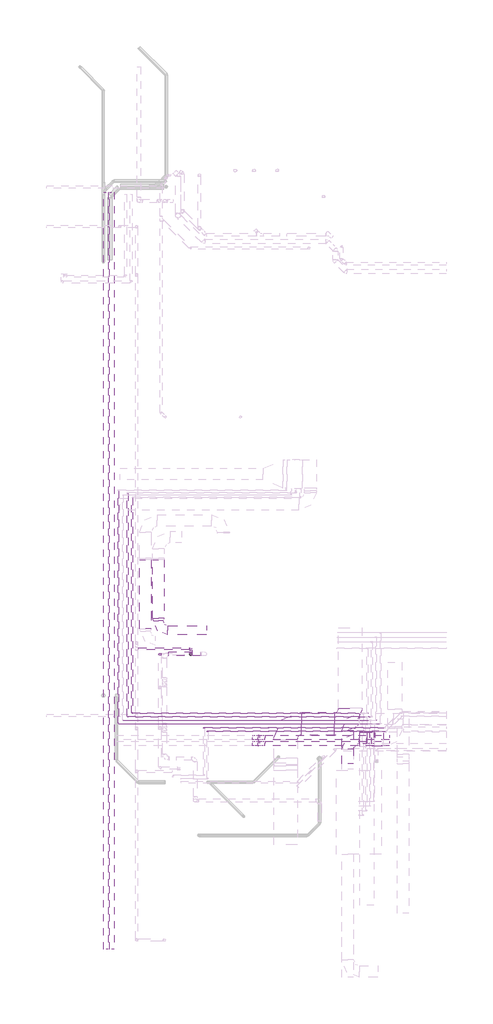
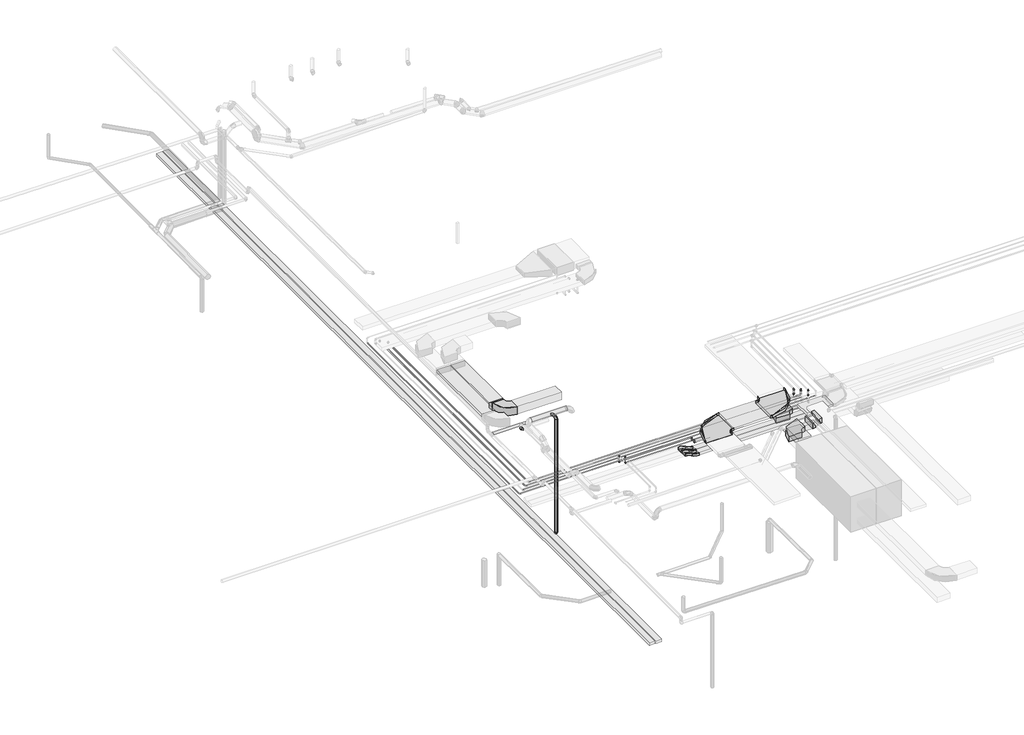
# One storey, part 4 of 10: 23 pipe segments, 17 pipe fittings, 8 cable carrier segments, 7 duct segments, 6 cable carrier fittings, 6 duct fittings.
"""IFC4 building model written with IfcOpenShell, lengths in millimetres."""

from ifc_helpers import new_model, si_unit, point, frame, frame_2d, origin, place, context, project, spatial, polyline, circle_curve, trimmed, segment, composite_curve, outline, extrude, transform, mapped, element, save
from components import m_codo_horizontal_de_canal_a375e3e3, m_codo_vertical_exterior_de_canal_el_b3e8eea7, m_codo_vertical_interior_de_canal_el_369a9aa2, duct_fitting_e59b9992, m_codo_rectangular_radio_apt_1_w_3d36b4d6, m_codo_rectangular_radio_apt_1_w_8ec2a39b, m_codo_rectangular_radio_imp_1_w_4a62f7f6, pipe_fitting_688cd524, pipe_fitting_371413ad, pipe_fitting_87aeffad, pipe_fitting_0bc3994a, pipe_fitting_c7f6bb04, pipe_fitting_c06ac706

model = new_model("IFC4")

# Units and contexts
model_context = context("Model", 3, world=origin())
ifc_project = project(units=[si_unit("LENGTHUNIT", "METRE", prefix="MILLI")], contexts=[model_context])

# Site, building, storey
site = spatial("IfcSite", under=ifc_project)
building = spatial("IfcBuilding", under=site)
storey = spatial("IfcBuildingStorey", under=building, Name="Nivell 00 P00_PB", Elevation=6330.0)

# Cable carrier fittings
placement = place(None, origin())
m_codo_horizontal_de_canal_shape = m_codo_horizontal_de_canal_a375e3e3(model_context)
element("IfcCableCarrierFitting", 1, ObjectType="M_Codo horizontal de canal : Gasos", at=placement, inside=storey, context=model_context, shape_type="MappedRepresentation", body=[
    mapped(m_codo_horizontal_de_canal_shape, transform((11819.6653746, -14970.900755, 10510.0), x_axis=(-1.0, 0.0, 0.0), y_axis=(0.0, -1.0, 0.0), z_axis=(0.0, 0.0, 1.0))),
])
element("IfcCableCarrierFitting", 2, ObjectType="M_Codo horizontal de canal : Gasos", at=placement, inside=storey, context=model_context, shape_type="MappedRepresentation", body=[
    mapped(m_codo_horizontal_de_canal_shape, transform((14569.6653746, -14970.900755, 10510.0), x_axis=(1.0, 0.0, 0.0), y_axis=(0.0, 1.0, 0.0), z_axis=(0.0, 0.0, 1.0))),
])
m_codo_vertical_exterior_de_canal_el_shape = m_codo_vertical_exterior_de_canal_el_b3e8eea7(model_context)
element("IfcCableCarrierFitting", 3, ObjectType="M_Codo vertical exterior de canal : EL", at=placement, inside=storey, context=model_context, shape_type="MappedRepresentation", body=[
    mapped(m_codo_vertical_exterior_de_canal_el_shape, transform((10527.4761362, -15561.0333178, 10480.0), x_axis=(1.0, 0.0, 0.0), y_axis=(0.0, 0.0, -1.0), z_axis=(0.0, 1.0, 0.0))),
])
element("IfcCableCarrierFitting", 4, ObjectType="M_Codo vertical exterior de canal : EL", at=placement, inside=storey, context=model_context, shape_type="MappedRepresentation", body=[
    mapped(m_codo_vertical_exterior_de_canal_el_shape, transform((10527.4761362, -15811.0333178, 10480.0), x_axis=(-0.866025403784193, 0.0, 0.5000000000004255), y_axis=(-0.5000000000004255, 0.0, -0.866025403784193), z_axis=(0.0, -1.0, 0.0))),
])
m_codo_vertical_interior_de_canal_el_shape = m_codo_vertical_interior_de_canal_el_369a9aa2(model_context)
element("IfcCableCarrierFitting", 5, ObjectType="M_Codo vertical interior de canal : EL", at=placement, inside=storey, context=model_context, shape_type="MappedRepresentation", body=[
    mapped(m_codo_vertical_interior_de_canal_el_shape, transform((10787.2837573, -15811.0333178, 10330.0), x_axis=(0.866025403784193, 0.0, -0.5000000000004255), y_axis=(0.5000000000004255, 0.0, 0.866025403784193), z_axis=(0.0, -1.0, 0.0))),
])
element("IfcCableCarrierFitting", 6, ObjectType="M_Codo vertical interior de canal : EL", at=placement, inside=storey, context=model_context, shape_type="MappedRepresentation", body=[
    mapped(m_codo_vertical_interior_de_canal_el_shape, transform((10787.2837573, -15561.0333178, 10330.0), x_axis=(0.8660254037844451, 0.0, -0.49999999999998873), y_axis=(0.49999999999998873, 0.0, 0.8660254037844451), z_axis=(0.0, -1.0, 0.0))),
])

# Cable carrier segments
element("IfcCableCarrierSegment", 7, ObjectType="Gasos", at=placement, inside=storey, context=model_context, shape_type="SweptSolid", body=[
    extrude(outline(polyline([(12494.6653746, -15470.900755), (12494.6653746, -14470.900755), (13894.6653746, -14470.900755), (13894.6653746, -15470.900755), (12494.6653746, -15470.900755)])), frame((0.0, 0.0, 10460.0), z_axis=(0.0, 0.0, 1.0), x_axis=(1.0, 0.0, 0.0)), (0.0, 0.0, 1.0), 100.0),
])
element("IfcCableCarrierSegment", 8, ObjectType="EL", at=placement, inside=storey, context=model_context, shape_type="SweptSolid", body=[
    extrude(outline(polyline([(4272.267826, 7764.9666822), (4472.267826, 7764.9666822), (4472.267826, -24611.0333178), (4272.267826, -24611.0333178), (4272.267826, 7764.9666822)])), frame((0.0, 0.0, 10340.0), z_axis=(0.0, 0.0, 1.0), x_axis=(1.0, 0.0, 0.0)), (0.0, 0.0, 1.0), 100.0),
])
element("IfcCableCarrierSegment", 9, ObjectType="EL", at=placement, inside=storey, context=model_context, shape_type="SweptSolid", body=[
    extrude(outline(polyline([(4022.267826, 7764.9666822), (4222.267826, 7764.9666822), (4222.267826, -24611.0333178), (4022.267826, -24611.0333178), (4022.267826, 7764.9666822)])), frame((0.0, 0.0, 10340.0), z_axis=(0.0, 0.0, 1.0), x_axis=(1.0, 0.0, 0.0)), (0.0, 0.0, 1.0), 100.0),
])
element("IfcCableCarrierSegment", 10, ObjectType="EL", at=placement, inside=storey, context=model_context, shape_type="SweptSolid", body=[
    extrude(outline(polyline([(10929.2710554, -15661.0333178), (10929.2710554, -15461.0333178), (16247.2837573, -15461.0333178), (16247.2837573, -15661.0333178), (10929.2710554, -15661.0333178)])), frame((0.0, 0.0, 10280.0), z_axis=(0.0, 0.0, 1.0), x_axis=(1.0, 0.0, 0.0)), (0.0, 0.0, 1.0), 100.0),
])
element("IfcCableCarrierSegment", 11, ObjectType="EL", at=placement, inside=storey, context=model_context, shape_type="SweptSolid", body=[
    extrude(outline(polyline([(0.0, -200.0), (0.0, 0.0), (16.0254038, 0.0), (16.0254038, -200.0), (0.0, -200.0)])), frame((10625.4407433, -15461.0333178, 10365.7050808), z_axis=(0.49999999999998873, 0.0, 0.8660254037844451), x_axis=(0.8660254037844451, 0.0, -0.49999999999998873)), (0.0, 0.0, 1.0), 100.0),
])
element("IfcCableCarrierSegment", 12, ObjectType="EL", at=placement, inside=storey, context=model_context, shape_type="SweptSolid", body=[
    extrude(outline(polyline([(10929.2710554, -15911.0333178), (10929.2710554, -15711.0333178), (16247.2837573, -15711.0333178), (16247.2837573, -15911.0333178), (10929.2710554, -15911.0333178)])), frame((0.0, 0.0, 10280.0), z_axis=(0.0, 0.0, 1.0), x_axis=(1.0, 0.0, 0.0)), (0.0, 0.0, 1.0), 100.0),
])
element("IfcCableCarrierSegment", 13, ObjectType="EL", at=placement, inside=storey, context=model_context, shape_type="SweptSolid", body=[
    extrude(outline(polyline([(0.0, -200.0), (0.0, 0.0), (16.0254038, 0.0), (16.0254038, -200.0), (0.0, -200.0)])), frame((10639.3191501, -15911.0333178, 10357.6923789), z_axis=(0.5000000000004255, 0.0, 0.866025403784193), x_axis=(-0.866025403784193, 1.3514381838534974e-12, 0.5000000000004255)), (0.0, 0.0, 1.0), 100.0),
])
element("IfcCableCarrierSegment", 14, ObjectType="EL", at=placement, inside=storey, context=model_context, shape_type="SweptSolid", body=[
    extrude(outline(polyline([(16006.7684896, -15338.881498), (16006.7684896, -15938.881498), (14994.9823979, -15938.881498), (14994.9823979, -15338.881498), (16006.7684896, -15338.881498)])), frame((0.0, 0.0, 10460.0), z_axis=(0.0, 0.0, 1.0), x_axis=(1.0, 0.0, 0.0)), (0.0, 0.0, 1.0), 100.0),
])

# Duct fittings
duct_fitting_shape = duct_fitting_e59b9992(model_context)
element("IfcDuctFitting", 15, ObjectType="M_Transición rectangular - Ángulo : APT_45 graus", at=placement, inside=storey, context=model_context, shape_type="MappedRepresentation", body=[
    mapped(duct_fitting_shape, transform((6365.1038429, -10571.0153283, 10660.0), x_axis=(0.0, 1.0, 0.0), y_axis=(-1.0, 0.0, 0.0), z_axis=(0.0, 0.0, 1.0))),
])
m_codo_rectangular_radio_apt_1_w_shape = m_codo_rectangular_radio_apt_1_w_3d36b4d6(model_context)
element("IfcDuctFitting", 16, ObjectType="M_Codo rectangular - Radio : APT_1 W", at=placement, inside=storey, context=model_context, shape_type="MappedRepresentation", body=[
    mapped(m_codo_rectangular_radio_apt_1_w_shape, transform((6365.1038429, -10971.0153283, 10660.0), x_axis=(0.0, -1.0, 0.0), y_axis=(1.0, 0.0, 0.0), z_axis=(0.0, 0.0, 1.0))),
])
m_codo_rectangular_radio_apt_1_w_2_shape = m_codo_rectangular_radio_apt_1_w_8ec2a39b(model_context)
element("IfcDuctFitting", 17, ObjectType="M_Codo rectangular - Radio : IMP_1 W", at=placement, inside=storey, context=model_context, shape_type="MappedRepresentation", body=[
    mapped(m_codo_rectangular_radio_apt_1_w_2_shape, transform((14473.0832095, -14763.9966623, 10113.8720732), x_axis=(-1.0, 0.0, 0.0), y_axis=(0.0, -1.0, 0.0), z_axis=(0.0, 0.0, 1.0))),
])
element("IfcDuctFitting", 18, ObjectType="M_Codo rectangular - Radio : IMP_1 W", at=placement, inside=storey, context=model_context, shape_type="MappedRepresentation", body=[
    mapped(m_codo_rectangular_radio_apt_1_w_2_shape, transform((14473.0832095, -15563.9966623, 9863.8720732), x_axis=(-1.0, 0.0, 0.0), y_axis=(0.0, -1.0, 0.0), z_axis=(0.0, 0.0, 1.0))),
])
m_codo_rectangular_radio_imp_1_w_shape = m_codo_rectangular_radio_imp_1_w_4a62f7f6(model_context)
element("IfcDuctFitting", 19, ObjectType="M_Codo rectangular - Radio : IMP_1 W", at=placement, inside=storey, context=model_context, shape_type="MappedRepresentation", body=[
    mapped(m_codo_rectangular_radio_imp_1_w_shape, transform((15588.0689846, -15563.9966623, 9974.1161837), x_axis=(-1.0, 0.0, 0.0), y_axis=(0.0, 0.0, -1.0), z_axis=(0.0, -1.0, 0.0))),
])
element("IfcDuctFitting", 20, ObjectType="M_Codo rectangular - Radio : IMP_1 W", at=placement, inside=storey, context=model_context, shape_type="MappedRepresentation", body=[
    mapped(m_codo_rectangular_radio_imp_1_w_shape, transform((15321.9163609, -15563.9966623, 9863.8720732), x_axis=(-0.9238794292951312, 0.0, -0.3826836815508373), y_axis=(-0.3826836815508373, 0.0, 0.9238794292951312), z_axis=(0.0, 1.0, 0.0))),
])

# Duct segments
element("IfcDuctSegment", 21, ObjectType="EXT_Acer Galvanitzat - Rígid", at=placement, inside=storey, context=model_context, shape_type="SweptSolid", body=[
    extrude(outline(composite_curve([segment(trimmed(circle_curve(frame_2d((-11984.7059364, 10742.5)), 87.5), [point((-12072.2059364, 10742.5))], [point((-11984.7059364, 10830.0))], False, "CARTESIAN"), True, "CONTINUOUS"), segment(trimmed(circle_curve(frame_2d((-11984.7059364, 10742.5)), 87.5), [point((-11984.7059364, 10830.0))], [point((-11897.2059364, 10742.5))], False, "CARTESIAN"), True, "CONTINUOUS"), segment(trimmed(circle_curve(frame_2d((-11984.7059364, 10742.5)), 87.5), [point((-11897.2059364, 10742.5))], [point((-11984.7059364, 10655.0))], False, "CARTESIAN"), True, "CONTINUOUS"), segment(trimmed(circle_curve(frame_2d((-11984.7059364, 10742.5)), 87.5), [point((-11984.7059364, 10655.0))], [point((-12072.2059364, 10742.5))], False, "CARTESIAN"), True, "CONTINUOUS")], self_intersect=False)), frame((6802.2855995, 0.0, 0.0), z_axis=(1.0, 0.0, 0.0), x_axis=(0.0, 1.0, 0.0)), (0.0, 0.0, 1.0), 1363.8351),
])
element("IfcDuctSegment", 22, ObjectType="EXT_Fibra de vidre rígida", at=placement, inside=storey, context=model_context, shape_type="SweptSolid", body=[
    extrude(outline(polyline([(6065.094309, -10900.2954397), (5565.094309, -10900.2951242), (5565.0961633, -7962.0745403), (6065.0961633, -7962.0748558), (6065.094309, -10900.2954397)])), frame((0.0, 0.0, 10560.0), z_axis=(0.0, 0.0, 1.0), x_axis=(1.0, 0.0, 0.0)), (0.0, 0.0, 1.0), 200.0),
])
element("IfcDuctSegment", 23, ObjectType="APT_Fibra de vidre rígida", at=placement, inside=storey, context=model_context, shape_type="SweptSolid", body=[
    extrude(outline(polyline([(6615.1036942, -10450.304808), (6115.1036942, -10450.3044924), (6115.1052644, -7962.0770621), (6615.1052644, -7962.0773776), (6615.1036942, -10450.304808)])), frame((0.0, 0.0, 10560.0), z_axis=(0.0, 0.0, 1.0), x_axis=(1.0, 0.0, 0.0)), (0.0, 0.0, 1.0), 200.0),
])
element("IfcDuctSegment", 24, ObjectType="APT_Fibra de vidre rígida", at=placement, inside=storey, context=model_context, shape_type="SweptSolid", body=[
    extrude(outline(polyline([(6765.1038429, -11171.0153283), (6765.1038429, -10771.0153283), (8437.7661833, -10771.0153283), (8437.7661833, -11171.0153283), (6765.1038429, -11171.0153283)])), frame((0.0, 0.0, 10510.0), z_axis=(0.0, 0.0, 1.0), x_axis=(1.0, 0.0, 0.0)), (0.0, 0.0, 1.0), 300.0),
])
element("IfcDuctSegment", 25, ObjectType="IMP_Fibra de vidre rígida", at=placement, inside=storey, context=model_context, shape_type="SweptSolid", body=[
    extrude(outline(polyline([(14223.0832095, -15263.9966623), (14723.0832095, -15263.9966623), (14723.0832095, -16683.9966623), (14223.0832095, -16683.9966623), (14223.0832095, -15263.9966623)])), frame((0.0, 0.0, 10013.8720732), z_axis=(0.0, 0.0, 1.0), x_axis=(1.0, 0.0, 0.0)), (0.0, 0.0, 1.0), 200.0),
])
element("IfcDuctSegment", 26, ObjectType="IMP_Fibra de vidre rígida", at=placement, inside=storey, context=model_context, shape_type="SweptSolid", body=[
    extrude(outline(polyline([(14973.0832095, -15813.9966623), (14973.0832095, -15313.9966623), (15282.1338594, -15313.9966623), (15282.1338594, -15813.9966623), (14973.0832095, -15813.9966623)])), frame((0.0, 0.0, 9763.8720732), z_axis=(0.0, 0.0, 1.0), x_axis=(1.0, 0.0, 0.0)), (0.0, 0.0, 1.0), 200.0),
])
element("IfcDuctSegment", 27, ObjectType="IMP_Fibra de vidre rígida", at=placement, inside=storey, context=model_context, shape_type="SweptSolid", body=[
    extrude(outline(polyline([(0.0, -500.0), (0.0, 0.0), (208.5165532, 0.0), (208.5165532, -500.0), (0.0, -500.0)])), frame((15589.583118, -15813.9966623, 9866.5041267), z_axis=(-0.38268368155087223, 0.0, 0.9238794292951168), x_axis=(-0.9238794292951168, 0.0, -0.38268368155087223)), (0.0, 0.0, 1.0), 200.0),
])

# Pipe fittings
pipe_fitting_shape = pipe_fitting_688cd524(model_context)
element("IfcPipeFitting", 28, ObjectType="M_Codo - Genérico : Estándar", at=placement, inside=storey, context=model_context, shape_type="MappedRepresentation", body=[
    mapped(pipe_fitting_shape, transform((7761.0364328, -11995.3314651, 10519.8020607), x_axis=(0.0, 0.0, 1.0), y_axis=(0.0, 1.0, 0.0), z_axis=(-1.0, 0.0, 0.0))),
])
pipe_fitting_2_shape = pipe_fitting_371413ad(model_context)
element("IfcPipeFitting", 29, ObjectType="M_Codo - Genérico : Estándar", at=placement, inside=storey, context=model_context, shape_type="MappedRepresentation", body=[
    mapped(pipe_fitting_2_shape, transform((15317.0204373, -14524.1390154, 10560.0), x_axis=(-4.088234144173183e-05, -0.9999999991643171, 0.0), y_axis=(0.0, 0.0, -1.0000000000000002), z_axis=(0.9999999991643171, -4.088234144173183e-05, 0.0))),
])
element("IfcPipeFitting", 30, ObjectType="M_Codo - Genérico : Estándar", at=placement, inside=storey, context=model_context, shape_type="MappedRepresentation", body=[
    mapped(pipe_fitting_2_shape, transform((15317.0204373, -14524.1390154, 10360.0), x_axis=(0.0, 0.0, -1.0), y_axis=(-0.9999999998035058, 1.982393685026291e-05, 0.0), z_axis=(1.982393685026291e-05, 0.9999999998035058, 0.0))),
])
pipe_fitting_3_shape = pipe_fitting_87aeffad(model_context)
element("IfcPipeFitting", 31, ObjectType="M_Codo - Genérico : Estándar", at=placement, inside=storey, context=model_context, shape_type="MappedRepresentation", body=[
    mapped(pipe_fitting_3_shape, transform((6429.6948456, -11995.3314651, 10529.2), x_axis=(0.0, 0.0, -1.0), y_axis=(1.0, 0.0, 0.0), z_axis=(0.0, -1.0, 0.0))),
])
element("IfcPipeFitting", 32, ObjectType="M_Codo - Genérico : Estándar", at=placement, inside=storey, context=model_context, shape_type="MappedRepresentation", body=[
    mapped(pipe_fitting_3_shape, transform((7761.0364328, -11995.3314651, 5899.2), x_axis=(0.0, 0.0, -1.0), y_axis=(0.0, 1.0, 0.0), z_axis=(1.0, 0.0, 0.0))),
])
pipe_fitting_4_shape = pipe_fitting_0bc3994a(model_context)
element("IfcPipeFitting", 33, ObjectType="M_Codo - Genérico : Estándar", at=placement, inside=storey, context=model_context, shape_type="MappedRepresentation", body=[
    mapped(pipe_fitting_4_shape, transform((7761.0364328, -11764.9374389, 10522.1060009), x_axis=(0.0, 0.9999500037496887, 0.009999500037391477), y_axis=(-0.9999985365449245, -1.710735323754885e-05, 0.001710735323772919), z_axis=(0.0017108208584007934, -0.009999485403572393, 0.9999485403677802))),
])
pipe_fitting_5_shape = pipe_fitting_c7f6bb04(model_context)
element("IfcPipeFitting", 34, ObjectType="M_Codo - Genérico : Estándar", at=placement, inside=storey, context=model_context, shape_type="MappedRepresentation", body=[
    mapped(pipe_fitting_5_shape, transform((15497.0138299, -14674.6121068, 10559.9856588), x_axis=(-4.0696662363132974e-05, -0.9999999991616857, -4.517777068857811e-06), y_axis=(1.838584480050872e-10, 4.517777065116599e-06, -0.9999999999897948), z_axis=(0.9999999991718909, -4.069666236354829e-05, 0.0))),
])
pipe_fitting_6_shape = pipe_fitting_c06ac706(model_context)
element("IfcPipeFitting", 35, ObjectType="M_Codo - Genérico : Estándar", at=placement, inside=storey, context=model_context, shape_type="MappedRepresentation", body=[
    mapped(pipe_fitting_6_shape, transform((8470.3801213, -15294.0617869, 10713.15), x_axis=(0.0, 1.0, 0.0), y_axis=(0.0, 0.0, -1.0), z_axis=(-1.0, 0.0, 0.0))),
])
element("IfcPipeFitting", 36, ObjectType="M_Codo - Genérico : Estándar", at=placement, inside=storey, context=model_context, shape_type="MappedRepresentation", body=[
    mapped(pipe_fitting_6_shape, transform((8320.3801213, -15144.0617869, 10713.15), x_axis=(0.0, 1.0, 0.0), y_axis=(0.0, 0.0, -1.0), z_axis=(-1.0, 0.0, 0.0))),
])
element("IfcPipeFitting", 37, ObjectType="M_Codo - Genérico : Estándar", at=placement, inside=storey, context=model_context, shape_type="MappedRepresentation", body=[
    mapped(pipe_fitting_6_shape, transform((11089.0021338, -15144.0618162, 10363.0088186), x_axis=(-1.0, 0.0, 0.0), y_axis=(0.0, 0.0, 1.0), z_axis=(0.0, 1.0, 0.0))),
])
element("IfcPipeFitting", 38, ObjectType="M_Codo - Genérico : Estándar", at=placement, inside=storey, context=model_context, shape_type="MappedRepresentation", body=[
    mapped(pipe_fitting_6_shape, transform((8320.3801213, -15144.0617869, 10463.15), x_axis=(0.0, 0.0, -1.0), y_axis=(1.0, 0.0, 0.0), z_axis=(0.0, -1.0, 0.0))),
])
element("IfcPipeFitting", 39, ObjectType="M_Codo - Genérico : Estándar", at=placement, inside=storey, context=model_context, shape_type="MappedRepresentation", body=[
    mapped(pipe_fitting_6_shape, transform((11089.0021338, -15144.0618162, 10463.15), x_axis=(0.0, 0.0, 1.0), y_axis=(-0.9999999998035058, 1.982393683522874e-05, 0.0), z_axis=(-1.982393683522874e-05, -0.9999999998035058, 0.0))),
])
element("IfcPipeFitting", 40, ObjectType="M_Codo - Genérico : Estándar", at=placement, inside=storey, context=model_context, shape_type="MappedRepresentation", body=[
    mapped(pipe_fitting_6_shape, transform((11088.9991602, -15294.0616179, 10363.0088186), x_axis=(-1.0, 0.0, 0.0), y_axis=(0.0, 0.0, 1.0), z_axis=(0.0, 1.0, 0.0))),
])
element("IfcPipeFitting", 41, ObjectType="M_Codo - Genérico : Estándar", at=placement, inside=storey, context=model_context, shape_type="MappedRepresentation", body=[
    mapped(pipe_fitting_6_shape, transform((8470.3801213, -15294.0617869, 10463.15), x_axis=(0.0, 0.0, -1.0), y_axis=(1.0, 0.0, 0.0), z_axis=(0.0, -1.0, 0.0))),
])
element("IfcPipeFitting", 42, ObjectType="M_Codo - Genérico : Estándar", at=placement, inside=storey, context=model_context, shape_type="MappedRepresentation", body=[
    mapped(pipe_fitting_6_shape, transform((11088.9991602, -15294.0616179, 10463.15), x_axis=(0.0, 0.0, 1.0), y_axis=(-0.9999999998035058, 1.982393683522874e-05, 0.0), z_axis=(-1.982393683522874e-05, -0.9999999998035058, 0.0))),
])
element("IfcPipeFitting", 43, ObjectType="M_Codo - Genérico : Estándar", at=placement, inside=storey, context=model_context, shape_type="MappedRepresentation", body=[
    mapped(pipe_fitting_6_shape, transform((15687.0057005, -14825.0129512, 10567.5), x_axis=(-4.096096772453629e-05, -0.9999999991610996, 0.0), y_axis=(0.0, 0.0, -1.0), z_axis=(0.9999999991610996, -4.096096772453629e-05, 0.0))),
])
element("IfcPipeFitting", 44, ObjectType="M_Codo - Genérico : Estándar", at=placement, inside=storey, context=model_context, shape_type="MappedRepresentation", body=[
    mapped(pipe_fitting_6_shape, transform((15687.0057005, -14825.0129512, 10367.5), x_axis=(0.0, 0.0, -1.0), y_axis=(-0.9999999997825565, 2.085395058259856e-05, 0.0), z_axis=(2.085395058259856e-05, 0.9999999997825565, 0.0))),
])

# Pipe segments
element("IfcPipeSegment", 45, ObjectType="PPR_CLI_Aquatherm Blue Pipe", at=placement, inside=storey, context=model_context, shape_type="SweptSolid", body=[
    extrude(outline(composite_curve([segment(trimmed(circle_curve(frame_2d((0.0, 20.0)), 20.0), [point((0.0, 39.9999999))], [point((20.0, 20.0))], False, "CARTESIAN"), True, "CONTINUOUS"), segment(trimmed(circle_curve(frame_2d((0.0, 20.0)), 20.0), [point((20.0, 20.0))], [point((0.0, 0.0))], False, "CARTESIAN"), True, "CONTINUOUS"), segment(trimmed(circle_curve(frame_2d((0.0, 20.0)), 20.0), [point((0.0, 0.0))], [point((-20.0, 20.0))], False, "CARTESIAN"), True, "CONTINUOUS"), segment(trimmed(circle_curve(frame_2d((0.0, 20.0)), 20.0), [point((-20.0, 20.0))], [point((0.0, 39.9999999))], False, "CARTESIAN"), True, "CONTINUOUS")], self_intersect=False)), frame((5225.3090581, -14496.9504294, 10360.0), z_axis=(4.1712117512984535e-05, 0.9999999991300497, 0.0), x_axis=(0.0, 0.0, 1.0)), (0.0, 0.0, 1.0), 9184.9191373),
])
element("IfcPipeSegment", 46, ObjectType="PPR_CLI_Aquatherm Blue Pipe", at=placement, inside=storey, context=model_context, shape_type="SweptSolid", body=[
    extrude(outline(composite_curve([segment(trimmed(circle_curve(frame_2d((0.0, -20.0)), 20.0), [point((0.0, 0.0))], [point((20.0, -20.0))], False, "CARTESIAN"), True, "CONTINUOUS"), segment(trimmed(circle_curve(frame_2d((0.0, -20.0)), 20.0), [point((20.0, -20.0))], [point((0.0, -39.9999999))], False, "CARTESIAN"), True, "CONTINUOUS"), segment(trimmed(circle_curve(frame_2d((0.0, -20.0)), 20.0), [point((0.0, -39.9999999))], [point((-20.0, -20.0))], False, "CARTESIAN"), True, "CONTINUOUS"), segment(trimmed(circle_curve(frame_2d((0.0, -20.0)), 20.0), [point((-20.0, -20.0))], [point((0.0, 0.0))], False, "CARTESIAN"), True, "CONTINUOUS")], self_intersect=False)), frame((5025.3014764, -14647.4052501, 10360.0), z_axis=(4.171213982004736e-05, 0.9999999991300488, 0.0), x_axis=(0.0, 0.0, -1.0)), (0.0, 0.0, 1.0), 9535.3762803),
])
element("IfcPipeSegment", 47, ObjectType="PPR_CLI_Aquatherm Blue Pipe", at=placement, inside=storey, context=model_context, shape_type="SweptSolid", body=[
    extrude(outline(composite_curve([segment(trimmed(circle_curve(frame_2d((0.0, -12.5)), 12.5), [point((0.0, 0.0))], [point((12.5, -12.5))], False, "CARTESIAN"), True, "CONTINUOUS"), segment(trimmed(circle_curve(frame_2d((0.0, -12.5)), 12.5), [point((12.5, -12.5))], [point((0.0, -24.9999999))], False, "CARTESIAN"), True, "CONTINUOUS"), segment(trimmed(circle_curve(frame_2d((0.0, -12.5)), 12.5), [point((0.0, -24.9999999))], [point((-12.5, -12.5))], False, "CARTESIAN"), True, "CONTINUOUS"), segment(trimmed(circle_curve(frame_2d((0.0, -12.5)), 12.5), [point((-12.5, -12.5))], [point((0.0, 0.0))], False, "CARTESIAN"), True, "CONTINUOUS")], self_intersect=False)), frame((4632.78504, -14953.6836356, 10367.5), z_axis=(4.213158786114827e-05, 0.9999999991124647, 0.0), x_axis=(0.0, 0.0, -1.0)), (0.0, 0.0, 1.0), 9948.0158932),
])
element("IfcPipeSegment", 48, ObjectType="AN_CI", at=placement, inside=storey, context=model_context, shape_type="SweptSolid", body=[
    extrude(outline(composite_curve([segment(trimmed(circle_curve(frame_2d((7761.0364328, -11995.3314651)), 50.8), [point((7811.8364328, -11995.3314651))], [point((7761.0364328, -12046.1314651))], False, "CARTESIAN"), True, "CONTINUOUS"), segment(trimmed(circle_curve(frame_2d((7761.0364328, -11995.3314651)), 50.8), [point((7761.0364328, -12046.1314651))], [point((7710.2364328, -11995.3314651))], False, "CARTESIAN"), True, "CONTINUOUS"), segment(trimmed(circle_curve(frame_2d((7761.0364328, -11995.3314651)), 50.8), [point((7710.2364328, -11995.3314651))], [point((7761.0364328, -11944.5314651))], False, "CARTESIAN"), True, "CONTINUOUS"), segment(trimmed(circle_curve(frame_2d((7761.0364328, -11995.3314651)), 50.8), [point((7761.0364328, -11944.5314651))], [point((7811.8364328, -11995.3314651))], False, "CARTESIAN"), True, "CONTINUOUS")], self_intersect=False)), frame((0.0, 0.0, 5951.5875), z_axis=(0.0, 0.0, 1.0), x_axis=(1.0, 0.0, 0.0)), (0.0, 0.0, 1.0), 4516.3483163),
])
element("IfcPipeSegment", 49, ObjectType="AN_CI", at=placement, inside=storey, context=model_context, shape_type="SweptSolid", body=[
    extrude(outline(composite_curve([segment(trimmed(circle_curve(frame_2d((0.0, 50.8)), 50.8), [point((50.8, 50.8))], [point((0.0, 0.0))], False, "CARTESIAN"), True, "CONTINUOUS"), segment(trimmed(circle_curve(frame_2d((0.0, 50.8)), 50.8), [point((0.0, 0.0))], [point((-50.8, 50.8))], False, "CARTESIAN"), True, "CONTINUOUS"), segment(trimmed(circle_curve(frame_2d((0.0, 50.8)), 50.8), [point((-50.8, 50.8))], [point((0.0, 101.6))], False, "CARTESIAN"), True, "CONTINUOUS"), segment(trimmed(circle_curve(frame_2d((0.0, 50.8)), 50.8), [point((0.0, 101.6))], [point((50.8, 50.8))], False, "CARTESIAN"), True, "CONTINUOUS")], self_intersect=False)), frame((7761.0364328, -11943.9757885, 10571.1181574), z_axis=(0.0, 0.9999500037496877, 0.009999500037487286), x_axis=(1.0, 0.0, 0.0)), (0.0, 0.0, 1.0), 126.1526976),
])
element("IfcPipeSegment", 50, ObjectType="AN_CI", at=placement, inside=storey, context=model_context, shape_type="SweptSolid", body=[
    extrude(outline(composite_curve([segment(trimmed(circle_curve(frame_2d((0.0, -50.8)), 50.8), [point((-50.8, -50.8))], [point((0.0, 0.0))], False, "CARTESIAN"), True, "CONTINUOUS"), segment(trimmed(circle_curve(frame_2d((0.0, -50.8)), 50.8), [point((0.0, 0.0))], [point((50.8, -50.8))], False, "CARTESIAN"), True, "CONTINUOUS"), segment(trimmed(circle_curve(frame_2d((0.0, -50.8)), 50.8), [point((50.8, -50.8))], [point((0.0, -101.6000001))], False, "CARTESIAN"), True, "CONTINUOUS"), segment(trimmed(circle_curve(frame_2d((0.0, -50.8)), 50.8), [point((0.0, -101.6000001))], [point((-50.8, -50.8))], False, "CARTESIAN"), True, "CONTINUOUS")], self_intersect=False)), frame((7708.5624134, -11764.9374389, 10471.3957048), z_axis=(-0.999998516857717, 0.0, 0.0017222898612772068), x_axis=(0.0, 1.0, 0.0)), (0.0, 0.0, 1.0), 2213.046996),
])
element("IfcPipeSegment", 51, ObjectType="PPR_CLI_Aquatherm Blue Pipe", at=placement, inside=storey, context=model_context, shape_type="SweptSolid", body=[
    extrude(outline(composite_curve([segment(trimmed(circle_curve(frame_2d((0.0, 20.0)), 20.0), [point((-20.0, 20.0))], [point((0.0, 40.0))], False, "CARTESIAN"), True, "CONTINUOUS"), segment(trimmed(circle_curve(frame_2d((0.0, 20.0)), 20.0), [point((0.0, 40.0))], [point((20.0, 20.0))], False, "CARTESIAN"), True, "CONTINUOUS"), segment(trimmed(circle_curve(frame_2d((0.0, 20.0)), 20.0), [point((20.0, 20.0))], [point((0.0, 0.0))], False, "CARTESIAN"), True, "CONTINUOUS"), segment(trimmed(circle_curve(frame_2d((0.0, 20.0)), 20.0), [point((0.0, 0.0))], [point((-20.0, 20.0))], False, "CARTESIAN"), True, "CONTINUOUS")], self_intersect=False)), frame((15096.8432323, -14524.1346506, 10340.0), z_axis=(-0.9999999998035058, 1.9823936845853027e-05, 0.0), x_axis=(-1.9823936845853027e-05, -0.9999999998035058, 0.0)), (0.0, 0.0, 1.0), 9824.5472112),
])
element("IfcPipeSegment", 52, ObjectType="PPR_CLI_Aquatherm Blue Pipe", at=placement, inside=storey, context=model_context, shape_type="SweptSolid", body=[
    extrude(outline(composite_curve([segment(trimmed(circle_curve(frame_2d((0.0, -20.0)), 20.0), [point((-20.0, -20.0))], [point((0.0, 0.0))], False, "CARTESIAN"), True, "CONTINUOUS"), segment(trimmed(circle_curve(frame_2d((0.0, -20.0)), 20.0), [point((0.0, 0.0))], [point((20.0, -20.0))], False, "CARTESIAN"), True, "CONTINUOUS"), segment(trimmed(circle_curve(frame_2d((0.0, -20.0)), 20.0), [point((20.0, -20.0))], [point((0.0, -40.0))], False, "CARTESIAN"), True, "CONTINUOUS"), segment(trimmed(circle_curve(frame_2d((0.0, -20.0)), 20.0), [point((0.0, -40.0))], [point((-20.0, -20.0))], False, "CARTESIAN"), True, "CONTINUOUS")], self_intersect=False)), frame((15470.0263298, -14674.611544, 10340.0), z_axis=(-0.999999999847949, 1.743852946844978e-05, 0.0), x_axis=(1.743852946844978e-05, 0.999999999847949, 0.0)), (0.0, 0.0, 1.0), 183.1746342),
])
element("IfcPipeSegment", 53, ObjectType="PPR_CLI_Aquatherm Blue Pipe", at=placement, inside=storey, context=model_context, shape_type="SweptSolid", body=[
    extrude(outline(composite_curve([segment(trimmed(circle_curve(frame_2d((0.0, 12.5)), 12.5), [point((-12.5, 12.5))], [point((0.0, 25.0))], False, "CARTESIAN"), True, "CONTINUOUS"), segment(trimmed(circle_curve(frame_2d((0.0, 12.5)), 12.5), [point((0.0, 25.0))], [point((12.5, 12.5))], False, "CARTESIAN"), True, "CONTINUOUS"), segment(trimmed(circle_curve(frame_2d((0.0, 12.5)), 12.5), [point((12.5, 12.5))], [point((0.0, 0.0))], False, "CARTESIAN"), True, "CONTINUOUS"), segment(trimmed(circle_curve(frame_2d((0.0, 12.5)), 12.5), [point((0.0, 0.0))], [point((-12.5, 12.5))], False, "CARTESIAN"), True, "CONTINUOUS")], self_intersect=False)), frame((15411.8566058, -14825.0084645, 10355.0), z_axis=(-0.9999999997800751, 2.0972597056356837e-05, 0.0), x_axis=(-2.0972597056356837e-05, -0.9999999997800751, 0.0)), (0.0, 0.0, 1.0), 10545.9261753),
])
element("IfcPipeSegment", 54, ObjectType="PPR_CLI_Aquatherm Blue Pipe", at=placement, inside=storey, context=model_context, shape_type="SweptSolid", body=[
    extrude(outline(composite_curve([segment(trimmed(circle_curve(frame_2d((0.0, -12.5)), 12.5), [point((-12.5, -12.5))], [point((0.0, 0.0))], False, "CARTESIAN"), True, "CONTINUOUS"), segment(trimmed(circle_curve(frame_2d((0.0, -12.5)), 12.5), [point((0.0, 0.0))], [point((12.5, -12.5))], False, "CARTESIAN"), True, "CONTINUOUS"), segment(trimmed(circle_curve(frame_2d((0.0, -12.5)), 12.5), [point((12.5, -12.5))], [point((0.0, -25.0))], False, "CARTESIAN"), True, "CONTINUOUS"), segment(trimmed(circle_curve(frame_2d((0.0, -12.5)), 12.5), [point((0.0, -25.0))], [point((-12.5, -12.5))], False, "CARTESIAN"), True, "CONTINUOUS")], self_intersect=False)), frame((15866.3603172, -14974.5561052, 10355.0), z_axis=(-0.9999999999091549, 1.3479250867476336e-05, 0.0), x_axis=(1.3479250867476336e-05, 0.9999999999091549, 0.0)), (0.0, 0.0, 1.0), 254.4992482),
])
element("IfcPipeSegment", 55, ObjectType="AN_CI", at=placement, inside=storey, context=model_context, shape_type="SweptSolid", body=[
    extrude(outline(composite_curve([segment(trimmed(circle_curve(frame_2d((8470.3801213, -15294.0617869)), 16.85), [point((8487.2301213, -15294.0617869))], [point((8470.3801213, -15310.9117869))], False, "CARTESIAN"), True, "CONTINUOUS"), segment(trimmed(circle_curve(frame_2d((8470.3801213, -15294.0617869)), 16.85), [point((8470.3801213, -15310.9117869))], [point((8453.5301213, -15294.0617869))], False, "CARTESIAN"), True, "CONTINUOUS"), segment(trimmed(circle_curve(frame_2d((8470.3801213, -15294.0617869)), 16.85), [point((8453.5301213, -15294.0617869))], [point((8470.3801213, -15277.2117869))], False, "CARTESIAN"), True, "CONTINUOUS"), segment(trimmed(circle_curve(frame_2d((8470.3801213, -15294.0617869)), 16.85), [point((8470.3801213, -15277.2117869))], [point((8487.2301213, -15294.0617869))], False, "CARTESIAN"), True, "CONTINUOUS")], self_intersect=False)), frame((0.0, 0.0, 10483.7875), z_axis=(0.0, 0.0, 1.0), x_axis=(1.0, 0.0, 0.0)), (0.0, 0.0, 1.0), 208.725),
])
element("IfcPipeSegment", 56, ObjectType="AN_CI", at=placement, inside=storey, context=model_context, shape_type="SweptSolid", body=[
    extrude(outline(composite_curve([segment(trimmed(circle_curve(frame_2d((8320.3801213, -15144.0617869)), 16.85), [point((8337.2301213, -15144.0617869))], [point((8320.3801213, -15160.9117869))], False, "CARTESIAN"), True, "CONTINUOUS"), segment(trimmed(circle_curve(frame_2d((8320.3801213, -15144.0617869)), 16.85), [point((8320.3801213, -15160.9117869))], [point((8303.5301213, -15144.0617869))], False, "CARTESIAN"), True, "CONTINUOUS"), segment(trimmed(circle_curve(frame_2d((8320.3801213, -15144.0617869)), 16.85), [point((8303.5301213, -15144.0617869))], [point((8320.3801213, -15127.2117869))], False, "CARTESIAN"), True, "CONTINUOUS"), segment(trimmed(circle_curve(frame_2d((8320.3801213, -15144.0617869)), 16.85), [point((8320.3801213, -15127.2117869))], [point((8337.2301213, -15144.0617869))], False, "CARTESIAN"), True, "CONTINUOUS")], self_intersect=False)), frame((0.0, 0.0, 10483.7875), z_axis=(0.0, 0.0, 1.0), x_axis=(1.0, 0.0, 0.0)), (0.0, 0.0, 1.0), 208.725),
])
element("IfcPipeSegment", 57, ObjectType="AN_CI", at=placement, inside=storey, context=model_context, shape_type="SweptSolid", body=[
    extrude(outline(composite_curve([segment(trimmed(circle_curve(frame_2d((0.0, -16.85)), 16.85), [point((-16.85, -16.85))], [point((0.0, 0.0))], False, "CARTESIAN"), True, "CONTINUOUS"), segment(trimmed(circle_curve(frame_2d((0.0, -16.85)), 16.85), [point((0.0, 0.0))], [point((16.85, -16.85))], False, "CARTESIAN"), True, "CONTINUOUS"), segment(trimmed(circle_curve(frame_2d((0.0, -16.85)), 16.85), [point((16.85, -16.85))], [point((0.0, -33.7))], False, "CARTESIAN"), True, "CONTINUOUS"), segment(trimmed(circle_curve(frame_2d((0.0, -16.85)), 16.85), [point((0.0, -33.7))], [point((-16.85, -16.85))], False, "CARTESIAN"), True, "CONTINUOUS")], self_intersect=False)), frame((11068.3646338, -15144.0614071, 10446.3), z_axis=(-0.9999999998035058, 1.98239368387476e-05, 0.0), x_axis=(1.98239368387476e-05, 0.9999999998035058, 0.0)), (0.0, 0.0, 1.0), 2727.3466784),
])
element("IfcPipeSegment", 58, ObjectType="AN_CI", at=placement, inside=storey, context=model_context, shape_type="SweptSolid", body=[
    extrude(outline(composite_curve([segment(trimmed(circle_curve(frame_2d((0.0, -16.85)), 16.85), [point((-16.85, -16.85))], [point((0.0, 0.0))], False, "CARTESIAN"), True, "CONTINUOUS"), segment(trimmed(circle_curve(frame_2d((0.0, -16.85)), 16.85), [point((0.0, 0.0))], [point((16.85, -16.85))], False, "CARTESIAN"), True, "CONTINUOUS"), segment(trimmed(circle_curve(frame_2d((0.0, -16.85)), 16.85), [point((16.85, -16.85))], [point((0.0, -33.7))], False, "CARTESIAN"), True, "CONTINUOUS"), segment(trimmed(circle_curve(frame_2d((0.0, -16.85)), 16.85), [point((0.0, -33.7))], [point((-16.85, -16.85))], False, "CARTESIAN"), True, "CONTINUOUS")], self_intersect=False)), frame((11068.3616602, -15294.0612088, 10446.3), z_axis=(-0.9999999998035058, 1.98239368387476e-05, 0.0), x_axis=(1.98239368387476e-05, 0.9999999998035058, 0.0)), (0.0, 0.0, 1.0), 2577.3437049),
])
element("IfcPipeSegment", 59, ObjectType="AN_CI", at=placement, inside=storey, context=model_context, shape_type="SweptSolid", body=[
    extrude(outline(composite_curve([segment(trimmed(circle_curve(frame_2d((11089.0021338, -15144.0618162)), 16.85), [point((11072.1521338, -15144.0618162))], [point((11089.0021338, -15127.2118162))], False, "CARTESIAN"), True, "CONTINUOUS"), segment(trimmed(circle_curve(frame_2d((11089.0021338, -15144.0618162)), 16.85), [point((11089.0021338, -15127.2118162))], [point((11105.8521338, -15144.0618162))], False, "CARTESIAN"), True, "CONTINUOUS"), segment(trimmed(circle_curve(frame_2d((11089.0021338, -15144.0618162)), 16.85), [point((11105.8521338, -15144.0618162))], [point((11089.0021338, -15160.9118162))], False, "CARTESIAN"), True, "CONTINUOUS"), segment(trimmed(circle_curve(frame_2d((11089.0021338, -15144.0618162)), 16.85), [point((11089.0021338, -15160.9118162))], [point((11072.1521338, -15144.0618162))], False, "CARTESIAN"), True, "CONTINUOUS")], self_intersect=False)), frame((0.0, 0.0, 10383.6463186), z_axis=(0.0, 0.0, 1.0), x_axis=(1.0, 0.0, 0.0)), (0.0, 0.0, 1.0), 58.8661814),
])
element("IfcPipeSegment", 60, ObjectType="AN_CI", at=placement, inside=storey, context=model_context, shape_type="SweptSolid", body=[
    extrude(outline(composite_curve([segment(trimmed(circle_curve(frame_2d((11088.9991602, -15294.0616179)), 16.85), [point((11072.1491602, -15294.0616179))], [point((11088.9991602, -15277.2116179))], False, "CARTESIAN"), True, "CONTINUOUS"), segment(trimmed(circle_curve(frame_2d((11088.9991602, -15294.0616179)), 16.85), [point((11088.9991602, -15277.2116179))], [point((11105.8491602, -15294.0616179))], False, "CARTESIAN"), True, "CONTINUOUS"), segment(trimmed(circle_curve(frame_2d((11088.9991602, -15294.0616179)), 16.85), [point((11105.8491602, -15294.0616179))], [point((11088.9991602, -15310.9116179))], False, "CARTESIAN"), True, "CONTINUOUS"), segment(trimmed(circle_curve(frame_2d((11088.9991602, -15294.0616179)), 16.85), [point((11088.9991602, -15310.9116179))], [point((11072.1491602, -15294.0616179))], False, "CARTESIAN"), True, "CONTINUOUS")], self_intersect=False)), frame((0.0, 0.0, 10383.6463186), z_axis=(0.0, 0.0, 1.0), x_axis=(1.0, 0.0, 0.0)), (0.0, 0.0, 1.0), 58.8661814),
])
element("IfcPipeSegment", 61, ObjectType="PPR_CLI_Aquatherm Blue Pipe", at=placement, inside=storey, context=model_context, shape_type="SweptSolid", body=[
    extrude(outline(composite_curve([segment(trimmed(circle_curve(frame_2d((15317.0204373, -14524.1390154)), 20.0), [point((15337.0204373, -14524.1390154))], [point((15317.0204373, -14544.1390154))], False, "CARTESIAN"), True, "CONTINUOUS"), segment(trimmed(circle_curve(frame_2d((15317.0204373, -14524.1390154)), 20.0), [point((15317.0204373, -14544.1390154))], [point((15297.0204373, -14524.1390154))], False, "CARTESIAN"), True, "CONTINUOUS"), segment(trimmed(circle_curve(frame_2d((15317.0204373, -14524.1390154)), 20.0), [point((15297.0204373, -14524.1390154))], [point((15317.0204373, -14504.1390154))], False, "CARTESIAN"), True, "CONTINUOUS"), segment(trimmed(circle_curve(frame_2d((15317.0204373, -14524.1390154)), 20.0), [point((15317.0204373, -14504.1390154))], [point((15337.0204373, -14524.1390154))], False, "CARTESIAN"), True, "CONTINUOUS")], self_intersect=False)), frame((0.0, 0.0, 10386.9875), z_axis=(0.0, 0.0, 1.0), x_axis=(1.0, 0.0, 0.0)), (0.0, 0.0, 1.0), 146.025),
])
element("IfcPipeSegment", 62, ObjectType="PPR_CLI_Aquatherm Blue Pipe", at=placement, inside=storey, context=model_context, shape_type="SweptSolid", body=[
    extrude(outline(composite_curve([segment(trimmed(circle_curve(frame_2d((15497.0138299, -14674.6121068)), 20.0), [point((15517.0138299, -14674.6121068))], [point((15497.0138299, -14694.6121068))], False, "CARTESIAN"), True, "CONTINUOUS"), segment(trimmed(circle_curve(frame_2d((15497.0138299, -14674.6121068)), 20.0), [point((15497.0138299, -14694.6121068))], [point((15477.0138299, -14674.6121068))], False, "CARTESIAN"), True, "CONTINUOUS"), segment(trimmed(circle_curve(frame_2d((15497.0138299, -14674.6121068)), 20.0), [point((15477.0138299, -14674.6121068))], [point((15497.0138299, -14654.6121068))], False, "CARTESIAN"), True, "CONTINUOUS"), segment(trimmed(circle_curve(frame_2d((15497.0138299, -14674.6121068)), 20.0), [point((15497.0138299, -14654.6121068))], [point((15517.0138299, -14674.6121068))], False, "CARTESIAN"), True, "CONTINUOUS")], self_intersect=False)), frame((0.0, 0.0, 10386.9875), z_axis=(0.0, 0.0, 1.0), x_axis=(1.0, 0.0, 0.0)), (0.0, 0.0, 1.0), 146.0107807),
])
element("IfcPipeSegment", 63, ObjectType="PPR_CLI_Aquatherm Blue Pipe", at=placement, inside=storey, context=model_context, shape_type="SweptSolid", body=[
    extrude(outline(composite_curve([segment(trimmed(circle_curve(frame_2d((15687.0057005, -14825.0129512)), 12.5), [point((15699.5057005, -14825.0129512))], [point((15687.0057005, -14837.5129512))], False, "CARTESIAN"), True, "CONTINUOUS"), segment(trimmed(circle_curve(frame_2d((15687.0057005, -14825.0129512)), 12.5), [point((15687.0057005, -14837.5129512))], [point((15674.5057005, -14825.0129512))], False, "CARTESIAN"), True, "CONTINUOUS"), segment(trimmed(circle_curve(frame_2d((15687.0057005, -14825.0129512)), 12.5), [point((15674.5057005, -14825.0129512))], [point((15687.0057005, -14812.5129512))], False, "CARTESIAN"), True, "CONTINUOUS"), segment(trimmed(circle_curve(frame_2d((15687.0057005, -14825.0129512)), 12.5), [point((15687.0057005, -14812.5129512))], [point((15699.5057005, -14825.0129512))], False, "CARTESIAN"), True, "CONTINUOUS")], self_intersect=False)), frame((0.0, 0.0, 10388.1375), z_axis=(0.0, 0.0, 1.0), x_axis=(1.0, 0.0, 0.0)), (0.0, 0.0, 1.0), 158.725),
])
element("IfcPipeSegment", 64, ObjectType="PPR_CLI_Aquatherm Blue Pipe", at=placement, inside=storey, context=model_context, shape_type="SweptSolid", body=[
    extrude(outline(composite_curve([segment(trimmed(circle_curve(frame_2d((0.0, -20.0)), 20.0), [point((-20.0, -20.0))], [point((0.0, 0.0))], False, "CARTESIAN"), True, "CONTINUOUS"), segment(trimmed(circle_curve(frame_2d((0.0, -20.0)), 20.0), [point((0.0, 0.0))], [point((20.0, -20.0))], False, "CARTESIAN"), True, "CONTINUOUS"), segment(trimmed(circle_curve(frame_2d((0.0, -20.0)), 20.0), [point((20.0, -20.0))], [point((0.0, -40.0))], False, "CARTESIAN"), True, "CONTINUOUS"), segment(trimmed(circle_curve(frame_2d((0.0, -20.0)), 20.0), [point((0.0, -40.0))], [point((-20.0, -20.0))], False, "CARTESIAN"), True, "CONTINUOUS")], self_intersect=False)), frame((15246.8516957, -14674.6075155, 10340.0), z_axis=(-0.9999999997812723, 2.0915439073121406e-05, 0.0), x_axis=(2.0915439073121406e-05, 0.9999999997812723, 0.0)), (0.0, 0.0, 1.0), 10174.5632844),
])
element("IfcPipeSegment", 65, ObjectType="PPR_CLI_Aquatherm Blue Pipe", at=placement, inside=storey, context=model_context, shape_type="SweptSolid", body=[
    extrude(outline(composite_curve([segment(trimmed(circle_curve(frame_2d((0.0, -12.5)), 12.5), [point((-12.5, -12.5))], [point((0.0, 0.0))], False, "CARTESIAN"), True, "CONTINUOUS"), segment(trimmed(circle_curve(frame_2d((0.0, -12.5)), 12.5), [point((0.0, 0.0))], [point((12.5, -12.5))], False, "CARTESIAN"), True, "CONTINUOUS"), segment(trimmed(circle_curve(frame_2d((0.0, -12.5)), 12.5), [point((12.5, -12.5))], [point((0.0, -25.0))], False, "CARTESIAN"), True, "CONTINUOUS"), segment(trimmed(circle_curve(frame_2d((0.0, -12.5)), 12.5), [point((0.0, -25.0))], [point((-12.5, -12.5))], False, "CARTESIAN"), True, "CONTINUOUS")], self_intersect=False)), frame((15581.8610691, -14974.5520491, 10355.0), z_axis=(-0.9999999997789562, 2.102588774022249e-05, 0.0), x_axis=(2.102588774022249e-05, 0.9999999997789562, 0.0)), (0.0, 0.0, 1.0), 10915.938962),
])
element("IfcPipeSegment", 66, ObjectType="AN_CI", at=placement, inside=storey, context=model_context, shape_type="SweptSolid", body=[
    extrude(outline(composite_curve([segment(trimmed(circle_curve(frame_2d((-15144.0618162, 10363.0088186)), 16.85), [point((-15160.9118162, 10363.0088186))], [point((-15144.0618162, 10379.8588186))], False, "CARTESIAN"), True, "CONTINUOUS"), segment(trimmed(circle_curve(frame_2d((-15144.0618162, 10363.0088186)), 16.85), [point((-15144.0618162, 10379.8588186))], [point((-15127.2118162, 10363.0088186))], False, "CARTESIAN"), True, "CONTINUOUS"), segment(trimmed(circle_curve(frame_2d((-15144.0618162, 10363.0088186)), 16.85), [point((-15127.2118162, 10363.0088186))], [point((-15144.0618162, 10346.1588186))], False, "CARTESIAN"), True, "CONTINUOUS"), segment(trimmed(circle_curve(frame_2d((-15144.0618162, 10363.0088186)), 16.85), [point((-15144.0618162, 10346.1588186))], [point((-15160.9118162, 10363.0088186))], False, "CARTESIAN"), True, "CONTINUOUS")], self_intersect=False)), frame((11109.6396338, 0.0, 0.0), z_axis=(1.0, 0.0, 0.0), x_axis=(0.0, 1.0, 0.0)), (0.0, 0.0, 1.0), 4950.8141676),
])
element("IfcPipeSegment", 67, ObjectType="AN_CI", at=placement, inside=storey, context=model_context, shape_type="SweptSolid", body=[
    extrude(outline(composite_curve([segment(trimmed(circle_curve(frame_2d((-15294.0616179, 10363.0088186)), 16.85), [point((-15310.9116179, 10363.0088186))], [point((-15294.0616179, 10379.8588186))], False, "CARTESIAN"), True, "CONTINUOUS"), segment(trimmed(circle_curve(frame_2d((-15294.0616179, 10363.0088186)), 16.85), [point((-15294.0616179, 10379.8588186))], [point((-15277.2116179, 10363.0088186))], False, "CARTESIAN"), True, "CONTINUOUS"), segment(trimmed(circle_curve(frame_2d((-15294.0616179, 10363.0088186)), 16.85), [point((-15277.2116179, 10363.0088186))], [point((-15294.0616179, 10346.1588186))], False, "CARTESIAN"), True, "CONTINUOUS"), segment(trimmed(circle_curve(frame_2d((-15294.0616179, 10363.0088186)), 16.85), [point((-15294.0616179, 10346.1588186))], [point((-15310.9116179, 10363.0088186))], False, "CARTESIAN"), True, "CONTINUOUS")], self_intersect=False)), frame((11109.6366602, 0.0, 0.0), z_axis=(1.0, 0.0, 0.0), x_axis=(0.0, 1.0, 0.0)), (0.0, 0.0, 1.0), 5012.9493738),
])

save(model, "model.ifc")
